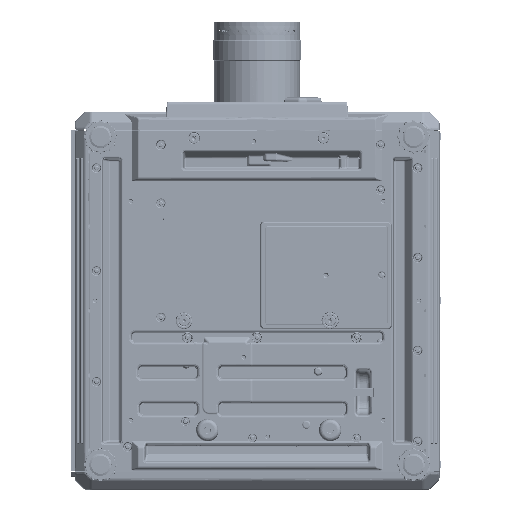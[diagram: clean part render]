
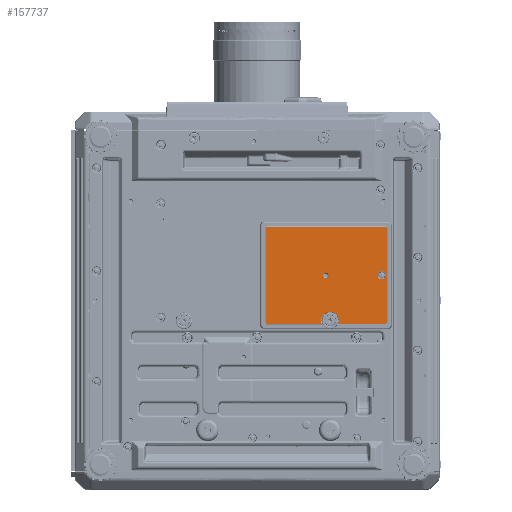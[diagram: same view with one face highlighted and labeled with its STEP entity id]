
A CAD part, front view. The second image highlights one B-rep face of the part: STEP entity #157737.
In plain terms, the highlighted planar face has unit normal (0, -1, 0).
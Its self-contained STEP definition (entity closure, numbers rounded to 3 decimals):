
#82460=ELLIPSE('',#346818,1.504,1.5);
#82461=ELLIPSE('',#346819,1.504,1.5);
#82462=ELLIPSE('',#346821,1.504,1.5);
#82463=ELLIPSE('',#346822,1.504,1.5);
#88510=PLANE('',#346823);
#105463=LINE('',#476401,#132154);
#105464=LINE('',#476406,#132155);
#105465=LINE('',#476410,#132156);
#105466=LINE('',#476454,#132157);
#105467=LINE('',#476458,#132158);
#132154=VECTOR('',#378942,1.);
#132155=VECTOR('',#378945,1.);
#132156=VECTOR('',#378948,1.);
#132157=VECTOR('',#378951,1.);
#132158=VECTOR('',#378954,1.);
#157737=ADVANCED_FACE('',(#172845,#172846,#172847),#88510,.F.);
#169125=B_SPLINE_CURVE_WITH_KNOTS('',3,(#476412,#476413,#476414,#476415,
#476416,#476417,#476418,#476419,#476420,#476421,#476422,#476423,#476424,
#476425,#476426,#476427,#476428,#476429,#476430),.UNSPECIFIED.,.F.,.F.,
(4,3,3,3,3,3,4),(0.,0.054,0.243,0.432,
0.621,0.811,1.),.UNSPECIFIED.);
#169126=B_SPLINE_CURVE_WITH_KNOTS('',3,(#476434,#476435,#476436,#476437,
#476438,#476439,#476440,#476441,#476442,#476443,#476444,#476445,#476446,
#476447,#476448,#476449,#476450,#476451,#476452),.UNSPECIFIED.,.F.,.F.,
(4,3,3,3,3,3,4),(0.,0.054,0.243,0.432,
0.621,0.811,1.),.UNSPECIFIED.);
#172845=FACE_BOUND('',#176233,.T.);
#172846=FACE_BOUND('',#176234,.T.);
#172847=FACE_BOUND('',#176235,.T.);
#176233=EDGE_LOOP('',(#195806));
#176234=EDGE_LOOP('',(#195807));
#176235=EDGE_LOOP('',(#195808,#195809,#195810,#195811,#195812,#195813,#195814,
#195815,#195816,#195817,#195818,#195819));
#195806=ORIENTED_EDGE('',*,*,#292049,.T.);
#195807=ORIENTED_EDGE('',*,*,#292050,.T.);
#195808=ORIENTED_EDGE('',*,*,#292051,.T.);
#195809=ORIENTED_EDGE('',*,*,#292052,.T.);
#195810=ORIENTED_EDGE('',*,*,#292053,.T.);
#195811=ORIENTED_EDGE('',*,*,#292054,.T.);
#195812=ORIENTED_EDGE('',*,*,#292055,.T.);
#195813=ORIENTED_EDGE('',*,*,#292056,.T.);
#195814=ORIENTED_EDGE('',*,*,#292057,.T.);
#195815=ORIENTED_EDGE('',*,*,#292058,.T.);
#195816=ORIENTED_EDGE('',*,*,#292059,.T.);
#195817=ORIENTED_EDGE('',*,*,#292060,.T.);
#195818=ORIENTED_EDGE('',*,*,#292061,.T.);
#195819=ORIENTED_EDGE('',*,*,#292062,.T.);
#251369=VERTEX_POINT('',#476397);
#251370=VERTEX_POINT('',#476400);
#251371=VERTEX_POINT('',#476402);
#251372=VERTEX_POINT('',#476403);
#251373=VERTEX_POINT('',#476405);
#251374=VERTEX_POINT('',#476407);
#251375=VERTEX_POINT('',#476409);
#251376=VERTEX_POINT('',#476411);
#251377=VERTEX_POINT('',#476431);
#251378=VERTEX_POINT('',#476433);
#251379=VERTEX_POINT('',#476453);
#251380=VERTEX_POINT('',#476455);
#251381=VERTEX_POINT('',#476457);
#251382=VERTEX_POINT('',#476459);
#292049=EDGE_CURVE('',#251369,#251369,#335374,.T.);
#292050=EDGE_CURVE('',#251370,#251370,#335375,.T.);
#292051=EDGE_CURVE('',#251371,#251372,#105463,.T.);
#292052=EDGE_CURVE('',#251372,#251373,#82460,.T.);
#292053=EDGE_CURVE('',#251373,#251374,#105464,.T.);
#292054=EDGE_CURVE('',#251374,#251375,#82461,.T.);
#292055=EDGE_CURVE('',#251375,#251376,#105465,.T.);
#292056=EDGE_CURVE('',#251376,#251377,#169125,.T.);
#292057=EDGE_CURVE('',#251377,#251378,#335376,.T.);
#292058=EDGE_CURVE('',#251378,#251379,#169126,.T.);
#292059=EDGE_CURVE('',#251379,#251380,#105466,.T.);
#292060=EDGE_CURVE('',#251380,#251381,#82462,.T.);
#292061=EDGE_CURVE('',#251381,#251382,#105467,.T.);
#292062=EDGE_CURVE('',#251382,#251371,#82463,.T.);
#335374=CIRCLE('',#346815,4.);
#335375=CIRCLE('',#346817,6.125);
#335376=CIRCLE('',#346820,13.358);
#346815=AXIS2_PLACEMENT_3D('',#476396,#378936,#378937);
#346817=AXIS2_PLACEMENT_3D('',#476399,#378940,#378941);
#346818=AXIS2_PLACEMENT_3D('',#476404,#378943,#378944);
#346819=AXIS2_PLACEMENT_3D('',#476408,#378946,#378947);
#346820=AXIS2_PLACEMENT_3D('',#476432,#378949,#378950);
#346821=AXIS2_PLACEMENT_3D('',#476456,#378952,#378953);
#346822=AXIS2_PLACEMENT_3D('',#476460,#378955,#378956);
#346823=AXIS2_PLACEMENT_3D('',#476461,#378957,#378958);
#378936=DIRECTION('',(0.,1.,0.));
#378937=DIRECTION('',(0.,0.,1.));
#378940=DIRECTION('',(0.,1.,0.));
#378941=DIRECTION('',(0.,0.,1.));
#378942=DIRECTION('',(-1.,0.,0.));
#378943=DIRECTION('',(0.,-1.,0.));
#378944=DIRECTION('',(0.707,0.,-0.707));
#378945=DIRECTION('',(0.,0.,-1.));
#378946=DIRECTION('',(0.,-1.,0.));
#378947=DIRECTION('',(-0.707,0.,-0.707));
#378948=DIRECTION('',(1.,0.,0.));
#378949=DIRECTION('',(0.,1.,0.));
#378950=DIRECTION('',(0.,0.,1.));
#378951=DIRECTION('',(1.,0.,0.));
#378952=DIRECTION('',(0.,-1.,0.));
#378953=DIRECTION('',(-0.707,0.,0.707));
#378954=DIRECTION('',(0.,0.,1.));
#378955=DIRECTION('',(0.,-1.,0.));
#378956=DIRECTION('',(-0.707,0.,-0.707));
#378957=DIRECTION('',(0.,1.,0.));
#378958=DIRECTION('',(0.,0.,1.));
#476396=CARTESIAN_POINT('',(103.8,-116.5,-1.5));
#476397=CARTESIAN_POINT('',(103.8,-116.5,2.5));
#476399=CARTESIAN_POINT('',(187.8,-116.5,-1.5));
#476400=CARTESIAN_POINT('',(187.8,-116.5,4.625));
#476401=CARTESIAN_POINT('',(110.,-116.5,71.642));
#476402=CARTESIAN_POINT('',(193.644,-116.5,71.642));
#476403=CARTESIAN_POINT('',(14.356,-116.5,71.642));
#476404=CARTESIAN_POINT('',(14.36,-116.5,70.14));
#476405=CARTESIAN_POINT('',(12.858,-116.5,70.144));
#476406=CARTESIAN_POINT('',(12.858,-116.5,-70.));
#476407=CARTESIAN_POINT('',(12.858,-116.5,-73.144));
#476408=CARTESIAN_POINT('',(14.36,-116.5,-73.14));
#476409=CARTESIAN_POINT('',(14.356,-116.5,-74.642));
#476410=CARTESIAN_POINT('',(110.,-116.5,-74.642));
#476411=CARTESIAN_POINT('',(95.481,-116.5,-74.642));
#476412=CARTESIAN_POINT('',(95.481,-116.5,-74.642));
#476413=CARTESIAN_POINT('',(95.529,-116.5,-74.642));
#476414=CARTESIAN_POINT('',(95.578,-116.5,-74.64));
#476415=CARTESIAN_POINT('',(95.627,-116.5,-74.635));
#476416=CARTESIAN_POINT('',(95.794,-116.5,-74.619));
#476417=CARTESIAN_POINT('',(95.96,-116.5,-74.574));
#476418=CARTESIAN_POINT('',(96.112,-116.5,-74.503));
#476419=CARTESIAN_POINT('',(96.264,-116.5,-74.433));
#476420=CARTESIAN_POINT('',(96.405,-116.5,-74.335));
#476421=CARTESIAN_POINT('',(96.525,-116.5,-74.219));
#476422=CARTESIAN_POINT('',(96.645,-116.5,-74.102));
#476423=CARTESIAN_POINT('',(96.747,-116.5,-73.963));
#476424=CARTESIAN_POINT('',(96.822,-116.5,-73.813));
#476425=CARTESIAN_POINT('',(96.897,-116.5,-73.662));
#476426=CARTESIAN_POINT('',(96.947,-116.5,-73.497));
#476427=CARTESIAN_POINT('',(96.967,-116.5,-73.33));
#476428=CARTESIAN_POINT('',(96.988,-116.5,-73.164));
#476429=CARTESIAN_POINT('',(96.98,-116.5,-72.991));
#476430=CARTESIAN_POINT('',(96.945,-116.5,-72.827));
#476431=CARTESIAN_POINT('',(96.945,-116.5,-72.827));
#476432=CARTESIAN_POINT('',(110.,-116.5,-70.));
#476433=CARTESIAN_POINT('',(123.055,-116.5,-72.827));
#476434=CARTESIAN_POINT('',(123.055,-116.5,-72.827));
#476435=CARTESIAN_POINT('',(123.045,-116.5,-72.875));
#476436=CARTESIAN_POINT('',(123.037,-116.5,-72.923));
#476437=CARTESIAN_POINT('',(123.031,-116.5,-72.972));
#476438=CARTESIAN_POINT('',(123.012,-116.5,-73.138));
#476439=CARTESIAN_POINT('',(123.021,-116.5,-73.31));
#476440=CARTESIAN_POINT('',(123.058,-116.5,-73.473));
#476441=CARTESIAN_POINT('',(123.094,-116.5,-73.637));
#476442=CARTESIAN_POINT('',(123.159,-116.5,-73.796));
#476443=CARTESIAN_POINT('',(123.248,-116.5,-73.938));
#476444=CARTESIAN_POINT('',(123.337,-116.5,-74.08));
#476445=CARTESIAN_POINT('',(123.451,-116.5,-74.209));
#476446=CARTESIAN_POINT('',(123.582,-116.5,-74.313));
#476447=CARTESIAN_POINT('',(123.713,-116.5,-74.418));
#476448=CARTESIAN_POINT('',(123.864,-116.5,-74.502));
#476449=CARTESIAN_POINT('',(124.023,-116.5,-74.558));
#476450=CARTESIAN_POINT('',(124.181,-116.5,-74.613));
#476451=CARTESIAN_POINT('',(124.351,-116.5,-74.642));
#476452=CARTESIAN_POINT('',(124.519,-116.5,-74.642));
#476453=CARTESIAN_POINT('',(124.519,-116.5,-74.642));
#476454=CARTESIAN_POINT('',(110.,-116.5,-74.642));
#476455=CARTESIAN_POINT('',(193.644,-116.5,-74.642));
#476456=CARTESIAN_POINT('',(193.64,-116.5,-73.14));
#476457=CARTESIAN_POINT('',(195.142,-116.5,-73.144));
#476458=CARTESIAN_POINT('',(195.142,-116.5,-70.));
#476459=CARTESIAN_POINT('',(195.142,-116.5,70.144));
#476460=CARTESIAN_POINT('',(193.64,-116.5,70.14));
#476461=CARTESIAN_POINT('',(110.,-116.5,-70.));
